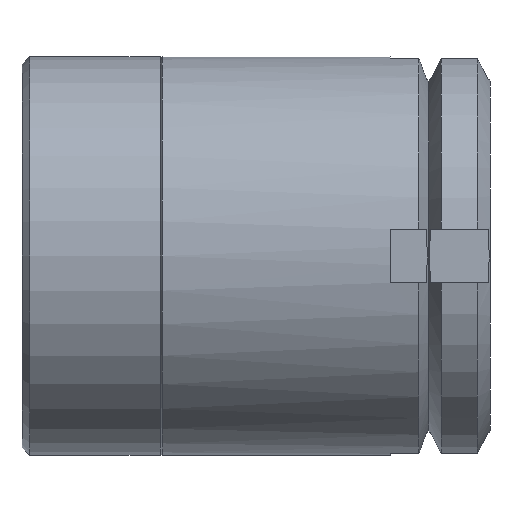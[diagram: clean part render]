
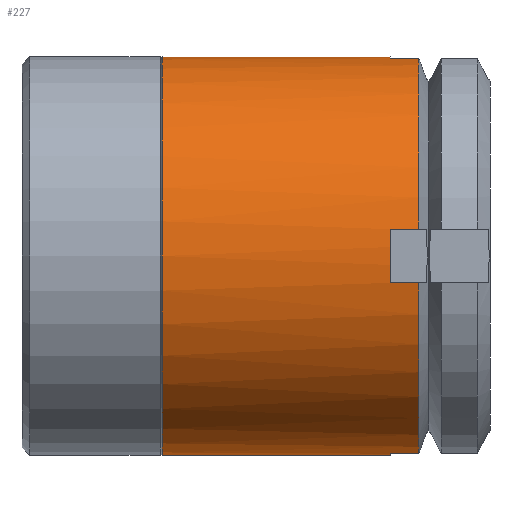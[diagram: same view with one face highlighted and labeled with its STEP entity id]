
A CAD part, front view. The second image highlights one B-rep face of the part: STEP entity #227.
In plain terms, the highlighted cylindrical face has radius 26 mm (diameter 52 mm), a full revolution.
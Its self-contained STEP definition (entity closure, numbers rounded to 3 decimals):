
#227 = ADVANCED_FACE( '', ( #342, #343 ), #344, .T. );
#342 = FACE_OUTER_BOUND( '', #527, .T. );
#343 = FACE_OUTER_BOUND( '', #528, .T. );
#344 = CYLINDRICAL_SURFACE( '', #529, 26. );
#527 = EDGE_LOOP( '', ( #756 ) );
#528 = EDGE_LOOP( '', ( #757, #758, #759, #760, #761, #762, #763, #764, #765, #766, #767, #768, #769, #770, #771, #772 ) );
#529 = AXIS2_PLACEMENT_3D( '', #773, #774, #775 );
#756 = ORIENTED_EDGE( '', *, *, #1157, .F. );
#757 = ORIENTED_EDGE( '', *, *, #1158, .F. );
#758 = ORIENTED_EDGE( '', *, *, #1159, .T. );
#759 = ORIENTED_EDGE( '', *, *, #1160, .T. );
#760 = ORIENTED_EDGE( '', *, *, #1161, .F. );
#761 = ORIENTED_EDGE( '', *, *, #1162, .F. );
#762 = ORIENTED_EDGE( '', *, *, #1163, .T. );
#763 = ORIENTED_EDGE( '', *, *, #1164, .T. );
#764 = ORIENTED_EDGE( '', *, *, #1165, .F. );
#765 = ORIENTED_EDGE( '', *, *, #1166, .F. );
#766 = ORIENTED_EDGE( '', *, *, #1143, .T. );
#767 = ORIENTED_EDGE( '', *, *, #1167, .T. );
#768 = ORIENTED_EDGE( '', *, *, #1168, .F. );
#769 = ORIENTED_EDGE( '', *, *, #1169, .F. );
#770 = ORIENTED_EDGE( '', *, *, #1170, .T. );
#771 = ORIENTED_EDGE( '', *, *, #1171, .T. );
#772 = ORIENTED_EDGE( '', *, *, #1172, .F. );
#773 = CARTESIAN_POINT( '', ( 0., 6.512, 0. ) );
#774 = DIRECTION( '', ( 0., 1., 0. ) );
#775 = DIRECTION( '', ( 0., 0., -1. ) );
#1143 = EDGE_CURVE( '', #1288, #1286, #1289, .T. );
#1157 = EDGE_CURVE( '', #1315, #1315, #1316, .T. );
#1158 = EDGE_CURVE( '', #1317, #1318, #1319, .T. );
#1159 = EDGE_CURVE( '', #1317, #1320, #1321, .T. );
#1160 = EDGE_CURVE( '', #1320, #1322, #1323, .T. );
#1161 = EDGE_CURVE( '', #1324, #1322, #1325, .T. );
#1162 = EDGE_CURVE( '', #1326, #1324, #1327, .T. );
#1163 = EDGE_CURVE( '', #1326, #1328, #1329, .T. );
#1164 = EDGE_CURVE( '', #1328, #1330, #1331, .T. );
#1165 = EDGE_CURVE( '', #1332, #1330, #1333, .T. );
#1166 = EDGE_CURVE( '', #1288, #1332, #1334, .T. );
#1167 = EDGE_CURVE( '', #1286, #1335, #1336, .T. );
#1168 = EDGE_CURVE( '', #1337, #1335, #1338, .T. );
#1169 = EDGE_CURVE( '', #1339, #1337, #1340, .T. );
#1170 = EDGE_CURVE( '', #1339, #1341, #1342, .T. );
#1171 = EDGE_CURVE( '', #1341, #1343, #1344, .T. );
#1172 = EDGE_CURVE( '', #1318, #1343, #1345, .T. );
#1286 = VERTEX_POINT( '', #1522 );
#1288 = VERTEX_POINT( '', #1530 );
#1289 = LINE( '', #1531, #1532 );
#1315 = VERTEX_POINT( '', #1560 );
#1316 = CIRCLE( '', #1561, 26. );
#1317 = VERTEX_POINT( '', #1562 );
#1318 = VERTEX_POINT( '', #1563 );
#1319 = CIRCLE( '', #1564, 26. );
#1320 = VERTEX_POINT( '', #1565 );
#1321 = LINE( '', #1566, #1567 );
#1322 = VERTEX_POINT( '', #1568 );
#1323 = CIRCLE( '', #1569, 26. );
#1324 = VERTEX_POINT( '', #1570 );
#1325 = LINE( '', #1571, #1572 );
#1326 = VERTEX_POINT( '', #1573 );
#1327 = CIRCLE( '', #1574, 26. );
#1328 = VERTEX_POINT( '', #1575 );
#1329 = LINE( '', #1576, #1577 );
#1330 = VERTEX_POINT( '', #1578 );
#1331 = CIRCLE( '', #1579, 26. );
#1332 = VERTEX_POINT( '', #1580 );
#1333 = LINE( '', #1581, #1582 );
#1334 = CIRCLE( '', #1583, 26. );
#1335 = VERTEX_POINT( '', #1584 );
#1336 = CIRCLE( '', #1585, 26. );
#1337 = VERTEX_POINT( '', #1586 );
#1338 = LINE( '', #1587, #1588 );
#1339 = VERTEX_POINT( '', #1589 );
#1340 = CIRCLE( '', #1590, 26. );
#1341 = VERTEX_POINT( '', #1591 );
#1342 = LINE( '', #1592, #1593 );
#1343 = VERTEX_POINT( '', #1594 );
#1344 = CIRCLE( '', #1595, 26. );
#1345 = LINE( '', #1596, #1597 );
#1522 = CARTESIAN_POINT( '', ( -25.763, 51.731, -3.5 ) );
#1530 = CARTESIAN_POINT( '', ( -25.763, 48.001, -3.5 ) );
#1531 = CARTESIAN_POINT( '', ( -25.763, 48.001, -3.5 ) );
#1532 = VECTOR( '', #2006, 1000. );
#1560 = CARTESIAN_POINT( '', ( 0., 18.255, -26. ) );
#1561 = AXIS2_PLACEMENT_3D( '', #2042, #2043, #2044 );
#1562 = CARTESIAN_POINT( '', ( 25.763, 48.001, 3.5 ) );
#1563 = CARTESIAN_POINT( '', ( 25.763, 48.001, -3.5 ) );
#1564 = AXIS2_PLACEMENT_3D( '', #2045, #2046, #2047 );
#1565 = CARTESIAN_POINT( '', ( 25.763, 51.731, 3.5 ) );
#1566 = CARTESIAN_POINT( '', ( 25.763, 48.001, 3.5 ) );
#1567 = VECTOR( '', #2048, 1000. );
#1568 = CARTESIAN_POINT( '', ( 3.5, 51.731, 25.763 ) );
#1569 = AXIS2_PLACEMENT_3D( '', #2049, #2050, #2051 );
#1570 = CARTESIAN_POINT( '', ( 3.5, 48.001, 25.763 ) );
#1571 = CARTESIAN_POINT( '', ( 3.5, 48.001, 25.763 ) );
#1572 = VECTOR( '', #2052, 1000. );
#1573 = CARTESIAN_POINT( '', ( -3.5, 48.001, 25.763 ) );
#1574 = AXIS2_PLACEMENT_3D( '', #2053, #2054, #2055 );
#1575 = CARTESIAN_POINT( '', ( -3.5, 51.731, 25.763 ) );
#1576 = CARTESIAN_POINT( '', ( -3.5, 48.001, 25.763 ) );
#1577 = VECTOR( '', #2056, 1000. );
#1578 = CARTESIAN_POINT( '', ( -25.763, 51.731, 3.5 ) );
#1579 = AXIS2_PLACEMENT_3D( '', #2057, #2058, #2059 );
#1580 = CARTESIAN_POINT( '', ( -25.763, 48.001, 3.5 ) );
#1581 = CARTESIAN_POINT( '', ( -25.763, 48.001, 3.5 ) );
#1582 = VECTOR( '', #2060, 1000. );
#1583 = AXIS2_PLACEMENT_3D( '', #2061, #2062, #2063 );
#1584 = CARTESIAN_POINT( '', ( -3.5, 51.731, -25.763 ) );
#1585 = AXIS2_PLACEMENT_3D( '', #2064, #2065, #2066 );
#1586 = CARTESIAN_POINT( '', ( -3.5, 48.001, -25.763 ) );
#1587 = CARTESIAN_POINT( '', ( -3.5, 48.001, -25.763 ) );
#1588 = VECTOR( '', #2067, 1000. );
#1589 = CARTESIAN_POINT( '', ( 3.5, 48.001, -25.763 ) );
#1590 = AXIS2_PLACEMENT_3D( '', #2068, #2069, #2070 );
#1591 = CARTESIAN_POINT( '', ( 3.5, 51.731, -25.763 ) );
#1592 = CARTESIAN_POINT( '', ( 3.5, 48.001, -25.763 ) );
#1593 = VECTOR( '', #2071, 1000. );
#1594 = CARTESIAN_POINT( '', ( 25.763, 51.731, -3.5 ) );
#1595 = AXIS2_PLACEMENT_3D( '', #2072, #2073, #2074 );
#1596 = CARTESIAN_POINT( '', ( 25.763, 48.001, -3.5 ) );
#1597 = VECTOR( '', #2075, 1000. );
#2006 = DIRECTION( '', ( 0., 1., 0. ) );
#2042 = CARTESIAN_POINT( '', ( 0., 18.255, 0. ) );
#2043 = DIRECTION( '', ( 0., -1., 0. ) );
#2044 = DIRECTION( '', ( 0., 0., -1. ) );
#2045 = CARTESIAN_POINT( '', ( 0., 48.001, 0. ) );
#2046 = DIRECTION( '', ( 0., 1., 0. ) );
#2047 = DIRECTION( '', ( 0., 0., 1. ) );
#2048 = DIRECTION( '', ( 0., 1., 0. ) );
#2049 = CARTESIAN_POINT( '', ( 0., 51.731, 0. ) );
#2050 = DIRECTION( '', ( 0., -1., 0. ) );
#2051 = DIRECTION( '', ( 0., 0., -1. ) );
#2052 = DIRECTION( '', ( 0., 1., 0. ) );
#2053 = CARTESIAN_POINT( '', ( 0., 48.001, 0. ) );
#2054 = DIRECTION( '', ( 0., 1., 0. ) );
#2055 = DIRECTION( '', ( 0., 0., 1. ) );
#2056 = DIRECTION( '', ( 0., 1., 0. ) );
#2057 = CARTESIAN_POINT( '', ( 0., 51.731, 0. ) );
#2058 = DIRECTION( '', ( 0., -1., 0. ) );
#2059 = DIRECTION( '', ( 0., 0., -1. ) );
#2060 = DIRECTION( '', ( 0., 1., 0. ) );
#2061 = CARTESIAN_POINT( '', ( 0., 48.001, 0. ) );
#2062 = DIRECTION( '', ( 0., 1., 0. ) );
#2063 = DIRECTION( '', ( 0., 0., 1. ) );
#2064 = CARTESIAN_POINT( '', ( 0., 51.731, 0. ) );
#2065 = DIRECTION( '', ( 0., -1., 0. ) );
#2066 = DIRECTION( '', ( 0., 0., -1. ) );
#2067 = DIRECTION( '', ( 0., 1., 0. ) );
#2068 = CARTESIAN_POINT( '', ( 0., 48.001, 0. ) );
#2069 = DIRECTION( '', ( 0., 1., 0. ) );
#2070 = DIRECTION( '', ( 0., 0., 1. ) );
#2071 = DIRECTION( '', ( 0., 1., 0. ) );
#2072 = CARTESIAN_POINT( '', ( 0., 51.731, 0. ) );
#2073 = DIRECTION( '', ( 0., -1., 0. ) );
#2074 = DIRECTION( '', ( 0., 0., -1. ) );
#2075 = DIRECTION( '', ( 0., 1., 0. ) );
